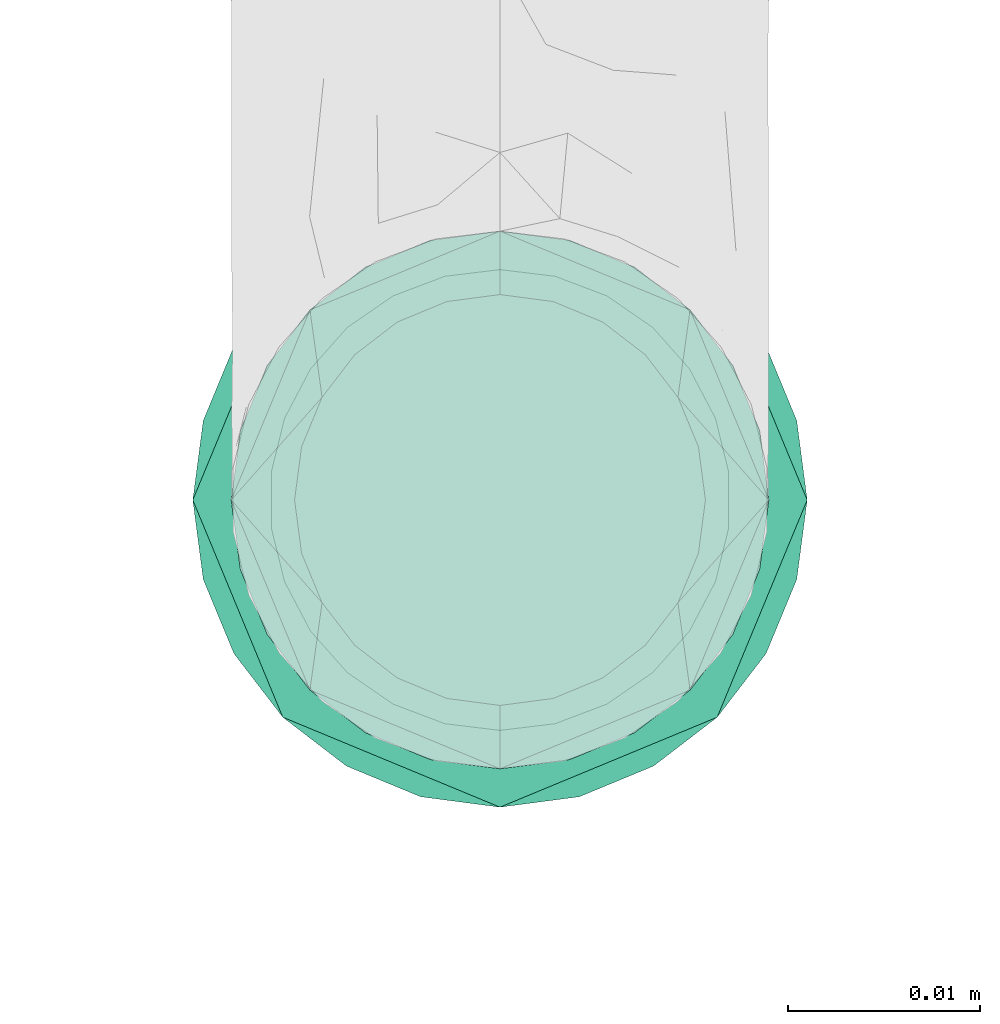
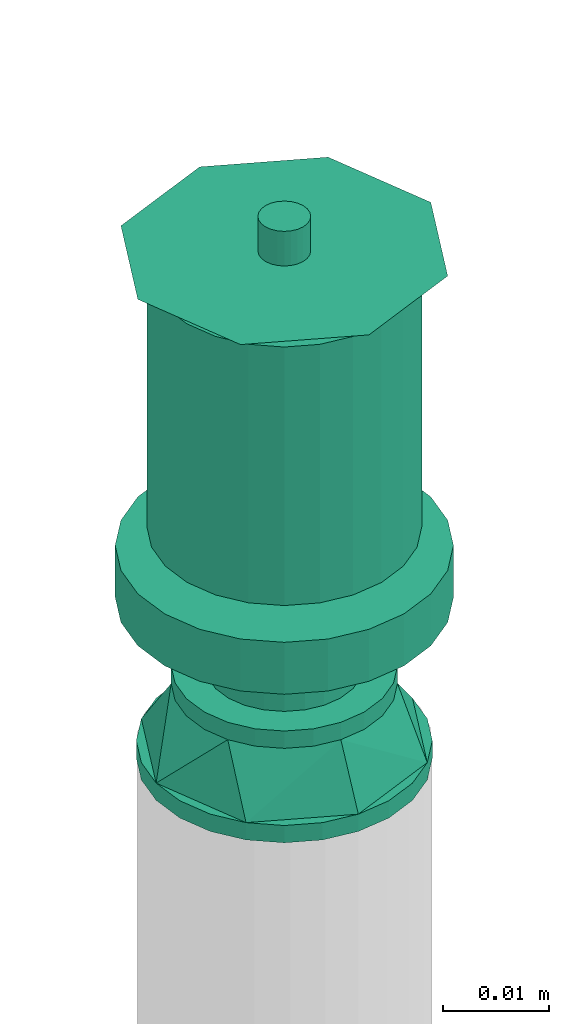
# One storey, part 51 of 95: 1 flow fitting, 1 flow terminal.
"""IFC2X3 building model written with IfcOpenShell, lengths in millimetres."""

from ifc_helpers import new_model, entity, si_unit, converted_unit, derived_unit, direction, frame, origin_with_axes, place, context, subcontext, project, spatial, open_shell, surface_model, source, transform, mapped, type_object, element, save


model = new_model("IFC2X3")

# Units and contexts
model_context = context("Model", 3, precision=0.01, world=frame((0.0, 4.29681676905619e-09, 0.0)), true_north=direction((4.01073788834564e-13, 1.0)))
plan_context = context("Plan", 3, precision=0.01, world=frame((0.0, 4.29681676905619e-09, 0.0)), true_north=direction((4.01073788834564e-13, 1.0)))
body_context = subcontext(model_context, "Body", "Model", "MODEL_VIEW")
ifc_project = project(units=[converted_unit("PLANEANGLEUNIT", "DEGREE", entity("IfcPositiveLengthMeasure", 0.0174532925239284), si_unit("PLANEANGLEUNIT", "RADIAN"), dimensions=[0, 0, 0, 0, 0, 0, 0]), si_unit("AREAUNIT", "SQUARE_METRE"), si_unit("LENGTHUNIT", "METRE", prefix="MILLI"), si_unit("MASSUNIT", "GRAM", prefix="KILO"), si_unit("POWERUNIT", "WATT"), si_unit("PRESSUREUNIT", "PASCAL"), si_unit("FORCEUNIT", "NEWTON", prefix="KILO"), si_unit("ELECTRICVOLTAGEUNIT", "VOLT"), si_unit("ELECTRICCURRENTUNIT", "AMPERE"), si_unit("THERMODYNAMICTEMPERATUREUNIT", "DEGREE_CELSIUS"), si_unit("TIMEUNIT", "SECOND"), si_unit("VOLUMEUNIT", "CUBIC_METRE"), derived_unit("LINEARVELOCITYUNIT", [(si_unit("LENGTHUNIT", "METRE"), 1), (si_unit("TIMEUNIT", "SECOND"), -1)]), derived_unit("VOLUMETRICFLOWRATEUNIT", [(si_unit("VOLUMEUNIT", "CUBIC_METRE"), 1), (si_unit("TIMEUNIT", "SECOND"), -1)]), derived_unit("THERMALTRANSMITTANCEUNIT", [(si_unit("POWERUNIT", "WATT"), 1), (si_unit("THERMODYNAMICTEMPERATUREUNIT", "KELVIN"), -1), (si_unit("AREAUNIT", "SQUARE_METRE"), -1)]), derived_unit("SOUNDPRESSUREUNIT", [(si_unit("PRESSUREUNIT", "PASCAL"), 1)])], contexts=[model_context, plan_context])

# Site, building, storey
site_placement = place(None, frame((0.0, -4.29681676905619e-09, 0.0), z_axis=(0.0, 0.0, 1.0), x_axis=(1.0, 0.0, 0.0)))
site = spatial("IfcSite", under=ifc_project, at=site_placement, CompositionType="ELEMENT")
building_placement = place(site_placement, frame((0.0, 4.29681676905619e-09, 0.0), z_axis=(0.0, 0.0, 1.0), x_axis=(1.0, 0.0, 0.0)))
building = spatial("IfcBuilding", under=site, at=building_placement, Name="mc-building", CompositionType="ELEMENT")
storey_placement = place(building_placement, frame((0.0, 0.0, 210900.0), z_axis=(0.0, 0.0, 1.0), x_axis=(1.0, 0.0, 0.0)))
storey = spatial("IfcBuildingStorey", under=building, at=storey_placement, Name="Nivå F", CompositionType="ELEMENT", Elevation=210900.0)

# Flow fitting
pipe_fitting_type = type_object("IfcPipeFittingType", Name="magi_pipe_fe_reducer_centric_short_001", PredefinedType="TRANSITION")
shared_shape_1 = source(origin_with_axes(), body_context, "Body", "SurfaceModel", [
    surface_model("IfcShellBasedSurfaceModel", [(8.6, 10.33541, -2.76936), (8.6, 2.76936, -10.33541), (8.6, 5.35, -9.26647), (8.6, 7.56604, -7.56604), (8.6, 0.0, -10.7), (8.6, 9.26647, -5.35), (8.6, -7.56604, -7.56604), (8.6, 10.7, 0.0), (8.6, -2.76936, -10.33541), (8.6, -5.35, -9.26647), (8.6, -10.33541, -2.76936), (8.6, -9.26647, -5.35), (8.6, 10.33541, 2.76936), (8.6, 9.26647, 5.35), (8.6, 7.56604, 7.56604), (8.6, 5.35, 9.26647), (8.6, 2.76936, 10.33541), (8.6, 0.0, 10.7), (8.6, -9.26647, 5.35), (8.6, -10.33541, 2.76936), (8.6, -10.7, 0.0), (8.6, -7.56604, 7.56604), (8.6, -2.76936, 10.33541), (8.6, -5.35, 9.26647), (6.6, 2.76936, 10.33541), (6.6, -10.33541, -2.76936), (6.6, 0.0, 10.7), (6.6, 5.35, 9.26647), (6.6, 7.56604, 7.56604), (6.6, 9.26647, 5.35), (6.6, 10.33541, 2.76936), (6.6, -10.33541, 2.76936), (6.6, -2.76936, 10.33541), (6.6, -7.56604, 7.56604), (6.6, -5.35, 9.26647), (6.6, -9.26647, 5.35), (6.6, -10.7, 0.0), (6.6, 10.33541, -2.76936), (6.6, 7.56604, -7.56604), (6.6, 9.26647, -5.35), (6.6, 5.35, -9.26647), (6.6, 2.76936, -10.33541), (6.6, -7.56604, -7.56604), (6.6, -9.26647, -5.35), (6.6, -5.35, -9.26647), (6.6, 0.0, -10.7), (6.6, -2.76936, -10.33541), (6.6, 10.7, 0.0), (-2.0, 9.89949, 9.89949), (-2.0, 0.0, 14.0), (-2.0, 3.62347, 13.52296), (-2.0, 7.0, 12.12436), (-2.0, 12.12436, 7.0), (-2.0, 13.52296, 3.62347), (-2.0, -3.62347, 13.52296), (-2.0, -12.12436, -7.0), (-2.0, -9.89949, 9.89949), (-2.0, -7.0, 12.12436), (-2.0, -13.52296, 3.62347), (-2.0, -12.12436, 7.0), (-2.0, -14.0, 0.0), (-2.0, 13.52296, -3.62347), (-2.0, 9.89949, -9.89949), (-2.0, 12.12436, -7.0), (-2.0, 7.0, -12.12436), (-2.0, 3.62347, -13.52296), (-2.0, -7.0, -12.12436), (-2.0, -9.89949, -9.89949), (-2.0, -13.52296, -3.62347), (-2.0, 0.0, -14.0), (-2.0, -3.62347, -13.52296), (-2.0, 14.0, 0.0), (0.0, 3.62347, -13.52296), (0.0, 7.0, -12.12436), (0.0, 9.89949, -9.89949), (0.0, 12.12436, -7.0), (0.0, 13.52296, -3.62347), (0.0, -7.0, -12.12436), (0.0, -12.12436, -7.0), (0.0, 14.0, 0.0), (0.0, 0.0, -14.0), (0.0, -3.62347, -13.52296), (0.0, -9.89949, -9.89949), (0.0, -13.52296, -3.62347), (0.0, 13.52296, 3.62347), (0.0, 12.12436, 7.0), (0.0, 9.89949, 9.89949), (0.0, 0.0, 14.0), (0.0, 3.62347, 13.52296), (0.0, 7.0, 12.12436), (0.0, -3.62347, 13.52296), (0.0, -13.52296, 3.62347), (0.0, -9.89949, 9.89949), (0.0, -12.12436, 7.0), (0.0, -14.0, 0.0), (0.0, -7.0, 12.12436)], [open_shell([[[0, 1, 2]], [[0, 2, 3]], [[1, 0, 4]], [[0, 3, 5]], [[6, 0, 7]], [[8, 6, 9]], [[6, 8, 4]], [[6, 10, 11]], [[6, 4, 0]], [[7, 10, 6]], [[7, 12, 10]], [[12, 13, 14]], [[12, 14, 15]], [[16, 17, 12]], [[16, 12, 15]], [[17, 18, 10]], [[10, 19, 20]], [[18, 19, 10]], [[21, 22, 23]], [[22, 21, 18]], [[17, 22, 18]], [[10, 12, 17]], [[24, 25, 26]], [[27, 25, 24]], [[28, 29, 30]], [[28, 30, 27]], [[31, 26, 25]], [[32, 33, 34]], [[32, 26, 33]], [[33, 31, 35]], [[26, 31, 33]], [[31, 25, 36]], [[27, 30, 25]], [[25, 30, 37]], [[38, 37, 39]], [[37, 40, 25]], [[40, 37, 38]], [[41, 25, 40]], [[25, 42, 43]], [[42, 25, 44]], [[44, 45, 46]], [[44, 25, 41]], [[41, 45, 44]], [[37, 30, 47]], [[25, 10, 36]], [[43, 11, 25]], [[9, 42, 44]], [[43, 42, 6]], [[8, 44, 46]], [[25, 11, 10]], [[10, 20, 36]], [[8, 9, 44]], [[6, 42, 9]], [[6, 11, 43]], [[4, 8, 46]], [[46, 45, 4]], [[41, 1, 45]], [[40, 2, 41]], [[5, 38, 39]], [[40, 38, 3]], [[0, 39, 37]], [[40, 3, 2]], [[2, 1, 41]], [[7, 0, 37]], [[5, 39, 0]], [[5, 3, 38]], [[47, 7, 37]], [[45, 1, 4]], [[30, 12, 47]], [[29, 13, 30]], [[15, 28, 27]], [[29, 28, 14]], [[16, 27, 24]], [[30, 13, 12]], [[12, 7, 47]], [[16, 15, 27]], [[14, 28, 15]], [[14, 13, 29]], [[17, 16, 24]], [[24, 26, 17]], [[32, 22, 26]], [[34, 23, 32]], [[18, 33, 35]], [[34, 33, 21]], [[19, 35, 31]], [[34, 21, 23]], [[23, 22, 32]], [[20, 19, 31]], [[18, 35, 19]], [[18, 21, 33]], [[36, 20, 31]], [[26, 22, 17]], [[48, 49, 50]], [[48, 50, 51]], [[48, 52, 53]], [[48, 53, 49]], [[54, 49, 55]], [[54, 56, 57]], [[56, 54, 58]], [[56, 58, 59]], [[60, 58, 55]], [[55, 58, 54]], [[55, 49, 53]], [[55, 53, 61]], [[62, 61, 63]], [[62, 64, 65]], [[61, 62, 66]], [[65, 66, 62]], [[55, 66, 67]], [[68, 60, 55]], [[66, 69, 70]], [[66, 55, 61]], [[69, 66, 65]], [[53, 71, 61]], [[72, 73, 74]], [[72, 74, 75]], [[72, 76, 77]], [[76, 72, 75]], [[78, 76, 79]], [[80, 77, 81]], [[80, 72, 77]], [[77, 78, 82]], [[76, 78, 77]], [[79, 83, 78]], [[79, 84, 83]], [[84, 85, 86]], [[84, 86, 87]], [[88, 87, 86]], [[88, 86, 89]], [[84, 87, 90]], [[91, 92, 93]], [[90, 91, 94]], [[92, 90, 95]], [[90, 92, 91]], [[94, 84, 90]], [[84, 94, 83]], [[68, 83, 60]], [[55, 78, 68]], [[77, 67, 66]], [[55, 67, 82]], [[81, 66, 70]], [[68, 78, 83]], [[83, 94, 60]], [[81, 77, 66]], [[82, 67, 77]], [[82, 78, 55]], [[80, 81, 70]], [[70, 69, 80]], [[65, 72, 69]], [[64, 73, 65]], [[75, 62, 63]], [[64, 62, 74]], [[76, 63, 61]], [[64, 74, 73]], [[73, 72, 65]], [[79, 76, 61]], [[75, 63, 76]], [[75, 74, 62]], [[71, 79, 61]], [[69, 72, 80]], [[53, 84, 71]], [[52, 85, 53]], [[89, 48, 51]], [[52, 48, 86]], [[88, 51, 50]], [[53, 85, 84]], [[84, 79, 71]], [[88, 89, 51]], [[86, 48, 89]], [[86, 85, 52]], [[87, 88, 50]], [[50, 49, 87]], [[54, 90, 49]], [[57, 95, 54]], [[93, 56, 59]], [[57, 56, 92]], [[91, 59, 58]], [[57, 92, 95]], [[95, 90, 54]], [[94, 91, 58]], [[93, 59, 91]], [[93, 92, 56]], [[60, 94, 58]], [[49, 90, 87]], [[27, 34, 47]], [[47, 34, 44]], [[44, 40, 47]], [[44, 34, 36]], [[87, 86, 92]], [[94, 92, 86]], [[86, 80, 94]], [[74, 80, 86]], [[82, 94, 80]], [[86, 79, 74]], [[47, 40, 74]], [[74, 79, 47]], [[40, 80, 74]], [[44, 36, 82]], [[82, 80, 44]], [[94, 82, 36]], [[44, 80, 40]], [[36, 34, 92]], [[92, 94, 36]], [[34, 87, 92]], [[27, 47, 86]], [[86, 87, 27]], [[79, 86, 47]], [[27, 87, 34]]])]),
])
flow_fitting_placement = place(storey_placement, frame((535962.24677, 443656.17841, 4383.44411000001), z_axis=(1.0, 0.0, 0.0), x_axis=(0.0, 0.0, 1.0)))
element("IfcFlowFitting", 1, at=flow_fitting_placement, inside=storey, type_object=pipe_fitting_type, Name="magi_pipe_fe_reducer_centric_short_001", context=body_context, shape_type="MappedRepresentation", body=[
    mapped(shared_shape_1, transform((0.0, 0.0, 0.0), scale=1.0)),
])

# Flow terminal
fire_suppression_terminal_type = type_object("IfcFireSuppressionTerminalType", Name="68DGR-STD-STÅENDE", PredefinedType="NOTDEFINED")
shared_shape_2 = source(origin_with_axes(), body_context, "Body", "SurfaceModel", [
    surface_model("IfcShellBasedSurfaceModel", [(3.36465, -12.55704, 51.0), (6.5, -11.25833, 51.0), (9.19239, -9.19239, 51.0), (12.55704, -3.36465, 51.0), (-11.25833, -6.5, 51.0), (11.25833, -6.5, 51.0), (-13.0, 0.0, 51.0), (0.0, -13.0, 51.0), (-6.5, -11.25833, 51.0), (-3.36465, -12.55704, 51.0), (-9.19239, -9.19239, 51.0), (-12.55704, -3.36465, 51.0), (13.0, 0.0, 51.0), (12.55704, 3.36465, 51.0), (11.25833, 6.5, 51.0), (9.19239, 9.19239, 51.0), (6.5, 11.25833, 51.0), (3.36465, 12.55704, 51.0), (0.0, 13.0, 51.0), (-3.36465, 12.55704, 51.0), (-12.55704, 3.36465, 51.0), (-9.19239, 9.19239, 51.0), (-11.25833, 6.5, 51.0), (-6.5, 11.25833, 51.0), (0.0, 13.0, 21.14766), (3.36465, 12.55704, 21.14766), (6.5, 11.25833, 21.14766), (-3.36465, 12.55704, 21.14766), (9.19239, 9.19239, 21.14766), (11.25833, 6.5, 21.14766), (12.55704, 3.36465, 21.14766), (-12.55704, 3.36465, 21.14766), (-11.25833, -6.5, 21.14766), (-9.19239, 9.19239, 21.14766), (-6.5, 11.25833, 21.14766), (-11.25833, 6.5, 21.14766), (-13.0, 0.0, 21.14766), (12.55704, -3.36465, 21.14766), (9.19239, -9.19239, 21.14766), (11.25833, -6.5, 21.14766), (6.5, -11.25833, 21.14766), (3.36465, -12.55704, 21.14766), (-6.5, -11.25833, 21.14766), (-9.19239, -9.19239, 21.14766), (-12.55704, -3.36465, 21.14766), (0.0, -13.0, 21.14766), (-3.36465, -12.55704, 21.14766), (13.0, 0.0, 21.14766), (7.24444, -1.94114, 0.1), (1.94114, -7.24444, 0.1), (3.75, -6.49519, 0.1), (5.3033, -5.3033, 0.1), (-5.3033, -5.3033, 0.1), (6.49519, -3.75, 0.1), (5.3033, 5.3033, 0.1), (0.0, -7.5, 0.1), (-3.75, -6.49519, 0.1), (-1.94114, -7.24444, 0.1), (-7.24444, -1.94114, 0.1), (-6.49519, -3.75, 0.1), (-7.24444, 1.94114, 0.1), (7.5, 0.0, 0.1), (6.49519, 3.75, 0.1), (-6.49519, 3.75, 0.1), (1.94114, 7.24444, 0.1), (0.0, 7.5, 0.1), (3.75, 6.49519, 0.1), (-7.5, 0.0, 0.1), (-5.3033, 5.3033, 0.1), (-1.94114, 7.24444, 0.1), (-3.75, 6.49519, 0.1), (7.24444, 1.94114, 0.1), (1.94114, 7.24444, -0.1), (-6.49519, 3.75, -0.1), (0.0, 7.5, -0.1), (5.3033, 5.3033, -0.1), (3.75, 6.49519, -0.1), (6.49519, 3.75, -0.1), (7.24444, 1.94114, -0.1), (-1.94114, 7.24444, -0.1), (-5.3033, 5.3033, -0.1), (-3.75, 6.49519, -0.1), (-7.24444, 1.94114, -0.1), (-7.24444, -1.94114, -0.1), (-7.5, 0.0, -0.1), (7.5, 0.0, -0.1), (7.24444, -1.94114, -0.1), (-5.3033, -5.3033, -0.1), (1.94114, -7.24444, -0.1), (6.49519, -3.75, -0.1), (5.3033, -5.3033, -0.1), (3.75, -6.49519, -0.1), (-6.49519, -3.75, -0.1), (-3.75, -6.49519, -0.1), (0.0, -7.5, -0.1), (-1.94114, -7.24444, -0.1), (0.0, -2.5, 51.0), (-2.5, 0.0, 51.0), (0.0, 2.5, 51.0), (2.5, 0.0, 51.0), (0.0, -16.0, 53.0), (11.31371, -11.31371, 53.0), (-11.31371, -11.31371, 53.0), (-16.0, 0.0, 53.0), (16.0, 0.0, 53.0), (11.31371, 11.31371, 53.0), (0.0, 16.0, 53.0), (-11.31371, 11.31371, 53.0), (1.25, -2.16506, 57.0), (0.0, -2.5, 57.0), (0.64705, -2.41481, 57.0), (2.41481, -0.64705, 57.0), (1.76777, -1.76777, 57.0), (-2.41481, -0.64705, 57.0), (-2.5, 0.0, 57.0), (2.16506, -1.25, 57.0), (-1.25, -2.16506, 57.0), (-0.64705, -2.41481, 57.0), (-1.76777, -1.76777, 57.0), (-2.16506, -1.25, 57.0), (2.5, 0.0, 57.0), (2.41481, 0.64705, 57.0), (2.16506, 1.25, 57.0), (1.76777, 1.76777, 57.0), (0.64705, 2.41481, 57.0), (1.25, 2.16506, 57.0), (-1.76777, 1.76777, 57.0), (0.0, 2.5, 57.0), (-2.16506, 1.25, 57.0), (-2.41481, 0.64705, 57.0), (-0.64705, 2.41481, 57.0), (-1.25, 2.16506, 57.0), (1.25, 2.16506, 51.0), (1.76777, 1.76777, 51.0), (1.15, 1.99186, 51.0), (0.59528, 2.22163, 51.0), (0.64705, 2.41481, 51.0), (0.0, 2.3, 51.0), (1.62635, 1.62635, 51.0), (2.41481, 0.64705, 51.0), (2.3, 0.0, 51.0), (2.22163, 0.59528, 51.0), (2.16506, 1.25, 51.0), (1.99186, 1.15, 51.0), (-0.59528, 2.22163, 51.0), (-0.64705, 2.41481, 51.0), (-1.15, 1.99186, 51.0), (-1.76777, 1.76777, 51.0), (-1.25, 2.16506, 51.0), (-1.62635, 1.62635, 51.0), (-1.99186, 1.15, 51.0), (-2.16506, 1.25, 51.0), (-2.22163, 0.59528, 51.0), (-2.41481, 0.64705, 51.0), (-2.3, 0.0, 51.0), (2.41481, -0.64705, 51.0), (2.22163, -0.59528, 51.0), (1.99186, -1.15, 51.0), (2.16506, -1.25, 51.0), (1.62635, -1.62635, 51.0), (1.76777, -1.76777, 51.0), (1.25, -2.16506, 51.0), (1.15, -1.99186, 51.0), (0.59528, -2.22163, 51.0), (0.64705, -2.41481, 51.0), (0.0, -2.3, 51.0), (-2.16506, -1.25, 51.0), (-1.99186, -1.15, 51.0), (-1.76777, -1.76777, 51.0), (-1.62635, -1.62635, 51.0), (-2.41481, -0.64705, 51.0), (-2.22163, -0.59528, 51.0), (-0.59528, -2.22163, 51.0), (-0.64705, -2.41481, 51.0), (-1.15, -1.99186, 51.0), (-1.25, -2.16506, 51.0), (1.62635, -1.62635, 56.8), (1.15, -1.99186, 56.8), (0.59528, -2.22163, 56.8), (0.0, -2.3, 56.8), (2.22163, 0.59528, 56.8), (1.99186, -1.15, 56.8), (2.22163, -0.59528, 56.8), (-0.59528, -2.22163, 56.8), (-1.15, -1.99186, 56.8), (-1.62635, -1.62635, 56.8), (-1.99186, -1.15, 56.8), (-2.22163, -0.59528, 56.8), (-1.99186, 1.15, 56.8), (2.3, 0.0, 56.8), (1.62635, 1.62635, 56.8), (1.99186, 1.15, 56.8), (1.15, 1.99186, 56.8), (0.0, 2.3, 56.8), (0.59528, 2.22163, 56.8), (-2.22163, 0.59528, 56.8), (-2.3, 0.0, 56.8), (-1.15, 1.99186, 56.8), (-0.59528, 2.22163, 56.8), (-1.62635, 1.62635, 56.8), (4.1411, -15.45481, 19.0), (8.0, -13.85641, 19.0), (11.31371, -11.31371, 19.0), (-8.0, -13.85641, 19.0), (15.45481, -4.1411, 19.0), (16.0, 0.0, 19.0), (13.85641, -8.0, 19.0), (0.0, -16.0, 19.0), (-4.1411, -15.45481, 19.0), (-13.85641, -8.0, 19.0), (-11.31371, -11.31371, 19.0), (-15.45481, -4.1411, 19.0), (15.45481, 4.1411, 19.0), (13.85641, 8.0, 19.0), (11.31371, 11.31371, 19.0), (-4.1411, 15.45481, 19.0), (8.0, 13.85641, 19.0), (4.1411, 15.45481, 19.0), (0.0, 16.0, 19.0), (-13.85641, 8.0, 19.0), (-15.45481, 4.1411, 19.0), (-16.0, 0.0, 19.0), (-11.31371, 11.31371, 19.0), (-8.0, 13.85641, 19.0), (0.0, 16.0, 13.0), (4.1411, 15.45481, 13.0), (8.0, 13.85641, 13.0), (-4.1411, 15.45481, 13.0), (11.31371, 11.31371, 13.0), (13.85641, 8.0, 13.0), (15.45481, 4.1411, 13.0), (-15.45481, -4.1411, 13.0), (-11.31371, 11.31371, 13.0), (-8.0, 13.85641, 13.0), (-13.85641, 8.0, 13.0), (-15.45481, 4.1411, 13.0), (-16.0, 0.0, 13.0), (4.1411, -15.45481, 13.0), (16.0, 0.0, 13.0), (15.45481, -4.1411, 13.0), (13.85641, -8.0, 13.0), (11.31371, -11.31371, 13.0), (8.0, -13.85641, 13.0), (-8.0, -13.85641, 13.0), (-13.85641, -8.0, 13.0), (-11.31371, -11.31371, 13.0), (0.0, -16.0, 13.0), (-4.1411, -15.45481, 13.0), (7.24444, -1.94114, 13.0), (1.94114, -7.24444, 13.0), (3.75, -6.49519, 13.0), (5.3033, -5.3033, 13.0), (-5.3033, -5.3033, 13.0), (6.49519, -3.75, 13.0), (5.3033, 5.3033, 13.0), (0.0, -7.5, 13.0), (-3.75, -6.49519, 13.0), (-1.94114, -7.24444, 13.0), (-7.24444, -1.94114, 13.0), (-6.49519, -3.75, 13.0), (-7.24444, 1.94114, 13.0), (7.5, 0.0, 13.0), (6.49519, 3.75, 13.0), (-6.49519, 3.75, 13.0), (1.94114, 7.24444, 13.0), (0.0, 7.5, 13.0), (3.75, 6.49519, 13.0), (-7.5, 0.0, 13.0), (-5.3033, 5.3033, 13.0), (-1.94114, 7.24444, 13.0), (-3.75, 6.49519, 13.0), (7.24444, 1.94114, 13.0), (3.75, 6.49519, 0.0), (5.3033, 5.3033, 0.0), (3.65, 6.32199, 0.0), (1.88938, 7.05126, 0.0), (0.0, 7.3, 0.0), (1.94114, 7.24444, 0.0), (0.0, 7.5, 0.0), (5.16188, 5.16188, 0.0), (7.24444, 1.94114, 0.0), (7.3, 0.0, 0.0), (7.05126, 1.88938, 0.0), (7.5, 0.0, 0.0), (6.49519, 3.75, 0.0), (6.32199, 3.65, 0.0), (-1.88938, 7.05126, 0.0), (-1.94114, 7.24444, 0.0), (-3.65, 6.32199, 0.0), (-5.3033, 5.3033, 0.0), (-3.75, 6.49519, 0.0), (-5.16188, 5.16188, 0.0), (-6.32199, 3.65, 0.0), (-6.49519, 3.75, 0.0), (-7.05126, 1.88938, 0.0), (-7.24444, 1.94114, 0.0), (-7.3, 0.0, 0.0), (-7.5, 0.0, 0.0), (7.24444, -1.94114, 0.0), (7.05126, -1.88938, 0.0), (6.32199, -3.65, 0.0), (6.49519, -3.75, 0.0), (5.16188, -5.16188, 0.0), (5.3033, -5.3033, 0.0), (3.75, -6.49519, 0.0), (3.65, -6.32199, 0.0), (1.88938, -7.05126, 0.0), (1.94114, -7.24444, 0.0), (0.0, -7.3, 0.0), (0.0, -7.5, 0.0), (-6.49519, -3.75, 0.0), (-6.32199, -3.65, 0.0), (-5.3033, -5.3033, 0.0), (-5.16188, -5.16188, 0.0), (-7.24444, -1.94114, 0.0), (-7.05126, -1.88938, 0.0), (-1.88938, -7.05126, 0.0), (-1.94114, -7.24444, 0.0), (-3.65, -6.32199, 0.0), (-3.75, -6.49519, 0.0), (1.88938, -7.05126, 12.8), (0.0, -7.3, 12.8), (3.65, -6.32199, 12.8), (5.16188, -5.16188, 12.8), (6.32199, -3.65, 12.8), (7.05126, 1.88938, 12.8), (7.05126, -1.88938, 12.8), (-5.16188, -5.16188, 12.8), (-1.88938, -7.05126, 12.8), (-3.65, -6.32199, 12.8), (-6.32199, -3.65, 12.8), (-7.05126, -1.88938, 12.8), (0.0, 7.3, 12.8), (7.3, 0.0, 12.8), (6.32199, 3.65, 12.8), (5.16188, 5.16188, 12.8), (3.65, 6.32199, 12.8), (1.88938, 7.05126, 12.8), (-6.32199, 3.65, 12.8), (-7.05126, 1.88938, 12.8), (-7.3, 0.0, 12.8), (-3.65, 6.32199, 12.8), (-1.88938, 7.05126, 12.8), (-5.16188, 5.16188, 12.8)], [open_shell([[[0, 1, 2]], [[0, 2, 3]], [[0, 3, 4]], [[3, 2, 5]], [[6, 4, 3]], [[7, 8, 9]], [[7, 0, 8]], [[8, 4, 10]], [[0, 4, 8]], [[4, 6, 11]], [[6, 3, 12]], [[13, 14, 15]], [[6, 13, 15]], [[16, 17, 18]], [[15, 16, 19]], [[18, 19, 16]], [[20, 21, 22]], [[20, 6, 15]], [[21, 19, 23]], [[19, 21, 20]], [[15, 19, 20]], [[13, 6, 12]], [[24, 25, 26]], [[27, 24, 26]], [[28, 29, 30]], [[26, 28, 31]], [[28, 32, 31]], [[27, 33, 34]], [[33, 27, 31]], [[33, 31, 35]], [[27, 26, 31]], [[31, 32, 36]], [[32, 28, 30]], [[32, 30, 37]], [[38, 37, 39]], [[38, 40, 41]], [[38, 41, 37]], [[32, 37, 41]], [[32, 42, 43]], [[44, 36, 32]], [[42, 45, 46]], [[42, 32, 41]], [[45, 42, 41]], [[30, 47, 37]], [[4, 32, 43]], [[8, 42, 46]], [[43, 42, 10]], [[9, 46, 45]], [[36, 11, 6]], [[11, 36, 44]], [[11, 44, 4]], [[44, 32, 4]], [[43, 10, 4]], [[8, 10, 42]], [[46, 9, 8]], [[45, 7, 9]], [[0, 41, 40]], [[38, 1, 40]], [[5, 39, 37]], [[38, 39, 2]], [[3, 37, 47]], [[41, 0, 7]], [[40, 1, 0]], [[38, 2, 1]], [[39, 5, 2]], [[3, 5, 37]], [[47, 12, 3]], [[41, 7, 45]], [[30, 13, 47]], [[29, 14, 30]], [[25, 24, 17]], [[15, 29, 28]], [[30, 14, 13]], [[13, 12, 47]], [[16, 26, 17]], [[16, 15, 28]], [[26, 25, 17]], [[15, 14, 29]], [[28, 26, 16]], [[24, 18, 17]], [[19, 27, 34]], [[33, 23, 34]], [[22, 35, 31]], [[33, 35, 21]], [[20, 31, 36]], [[27, 19, 18]], [[34, 23, 19]], [[33, 21, 23]], [[35, 22, 21]], [[20, 22, 31]], [[36, 6, 20]], [[27, 18, 24]], [[48, 49, 50]], [[48, 50, 51]], [[49, 48, 52]], [[48, 51, 53]], [[54, 52, 48]], [[55, 56, 57]], [[56, 55, 52]], [[52, 58, 59]], [[52, 55, 49]], [[52, 60, 58]], [[54, 48, 61]], [[62, 54, 61]], [[54, 63, 52]], [[64, 65, 54]], [[64, 54, 66]], [[63, 54, 65]], [[63, 60, 52]], [[67, 58, 60]], [[68, 69, 70]], [[69, 68, 63]], [[69, 63, 65]], [[71, 62, 61]], [[72, 73, 74]], [[75, 72, 76]], [[75, 77, 78]], [[72, 75, 73]], [[78, 73, 75]], [[79, 80, 81]], [[80, 79, 73]], [[74, 73, 79]], [[78, 82, 73]], [[82, 83, 84]], [[82, 78, 85]], [[86, 87, 85]], [[88, 86, 89]], [[90, 91, 88]], [[90, 88, 89]], [[87, 86, 88]], [[83, 87, 92]], [[83, 85, 87]], [[93, 94, 95]], [[94, 93, 87]], [[88, 94, 87]], [[85, 83, 82]], [[83, 58, 84]], [[92, 59, 83]], [[56, 87, 93]], [[92, 87, 52]], [[57, 93, 95]], [[83, 59, 58]], [[58, 67, 84]], [[57, 56, 93]], [[52, 87, 56]], [[52, 59, 92]], [[55, 57, 95]], [[95, 94, 55]], [[88, 49, 94]], [[91, 50, 88]], [[53, 90, 89]], [[91, 90, 51]], [[48, 89, 86]], [[91, 51, 50]], [[50, 49, 88]], [[61, 48, 86]], [[53, 89, 48]], [[53, 51, 90]], [[85, 61, 86]], [[94, 49, 55]], [[78, 71, 85]], [[77, 62, 78]], [[66, 75, 76]], [[77, 75, 54]], [[64, 76, 72]], [[78, 62, 71]], [[71, 61, 85]], [[64, 66, 76]], [[54, 75, 66]], [[54, 62, 77]], [[65, 64, 72]], [[72, 74, 65]], [[79, 69, 74]], [[81, 70, 79]], [[63, 80, 73]], [[81, 80, 68]], [[60, 73, 82]], [[81, 68, 70]], [[70, 69, 79]], [[67, 60, 82]], [[63, 73, 60]], [[63, 68, 80]], [[84, 67, 82]], [[74, 69, 65]], [[96, 97, 98]], [[98, 99, 96]], [[100, 101, 102]], [[103, 102, 101]], [[101, 104, 103]], [[104, 105, 106]], [[107, 103, 106]], [[106, 103, 104]], [[99, 98, 105]], [[105, 104, 99]], [[98, 106, 105]], [[98, 107, 106]], [[107, 98, 97]], [[103, 107, 97]], [[97, 96, 102]], [[102, 103, 97]], [[96, 100, 102]], [[96, 101, 100]], [[101, 96, 99]], [[104, 101, 99]], [[108, 109, 110]], [[111, 108, 112]], [[113, 108, 114]], [[111, 112, 115]], [[108, 111, 114]], [[109, 116, 117]], [[116, 109, 118]], [[118, 113, 119]], [[118, 109, 108]], [[108, 113, 118]], [[111, 120, 114]], [[121, 122, 123]], [[114, 121, 123]], [[114, 123, 124]], [[124, 123, 125]], [[126, 124, 127]], [[124, 128, 129]], [[129, 114, 124]], [[126, 130, 131]], [[128, 124, 126]], [[130, 126, 127]], [[121, 114, 120]], [[132, 133, 134]], [[132, 134, 135]], [[136, 135, 137]], [[135, 136, 132]], [[136, 137, 98]], [[134, 133, 138]], [[139, 140, 141]], [[140, 139, 99]], [[139, 141, 142]], [[138, 142, 143]], [[142, 138, 133]], [[143, 142, 141]], [[98, 144, 145]], [[98, 137, 144]], [[145, 144, 146]], [[147, 148, 149]], [[146, 148, 145]], [[149, 148, 146]], [[150, 151, 147]], [[151, 150, 152]], [[150, 147, 149]], [[153, 152, 154]], [[152, 153, 151]], [[153, 154, 97]], [[99, 155, 156]], [[156, 155, 157]], [[157, 158, 159]], [[158, 157, 155]], [[159, 158, 160]], [[160, 161, 162]], [[162, 161, 163]], [[163, 164, 165]], [[164, 163, 161]], [[165, 164, 96]], [[162, 159, 160]], [[166, 167, 168]], [[168, 167, 169]], [[167, 166, 170]], [[97, 171, 170]], [[170, 171, 167]], [[97, 154, 171]], [[172, 96, 173]], [[172, 173, 174]], [[169, 175, 168]], [[175, 169, 174]], [[175, 174, 173]], [[165, 96, 172]], [[156, 140, 99]], [[170, 113, 97]], [[166, 119, 170]], [[116, 168, 175]], [[166, 168, 118]], [[117, 175, 173]], [[170, 119, 113]], [[113, 114, 97]], [[117, 116, 175]], [[118, 168, 116]], [[118, 119, 166]], [[109, 117, 173]], [[173, 96, 109]], [[164, 110, 96]], [[161, 108, 164]], [[115, 160, 158]], [[161, 160, 112]], [[111, 158, 155]], [[161, 112, 108]], [[108, 110, 164]], [[120, 111, 155]], [[115, 158, 111]], [[115, 112, 160]], [[99, 120, 155]], [[96, 110, 109]], [[139, 121, 99]], [[142, 122, 139]], [[125, 133, 132]], [[142, 133, 123]], [[124, 132, 136]], [[139, 122, 121]], [[121, 120, 99]], [[124, 125, 132]], [[123, 133, 125]], [[123, 122, 142]], [[127, 124, 136]], [[136, 98, 127]], [[145, 130, 98]], [[148, 131, 145]], [[128, 147, 151]], [[148, 147, 126]], [[129, 151, 153]], [[148, 126, 131]], [[131, 130, 145]], [[114, 129, 153]], [[128, 151, 129]], [[128, 126, 147]], [[97, 114, 153]], [[98, 130, 127]], [[176, 177, 178]], [[176, 178, 179]], [[180, 176, 179]], [[181, 176, 182]], [[180, 182, 176]], [[183, 184, 179]], [[185, 179, 184]], [[186, 187, 185]], [[185, 187, 188]], [[179, 185, 188]], [[189, 182, 180]], [[190, 191, 180]], [[192, 190, 180]], [[193, 194, 192]], [[180, 193, 192]], [[188, 193, 180]], [[195, 188, 196]], [[196, 188, 187]], [[197, 198, 199]], [[188, 199, 198]], [[188, 198, 193]], [[180, 179, 188]], [[154, 187, 171]], [[171, 186, 167]], [[174, 169, 184]], [[185, 169, 167]], [[172, 174, 183]], [[187, 186, 171]], [[154, 196, 187]], [[174, 184, 183]], [[184, 169, 185]], [[167, 186, 185]], [[172, 183, 179]], [[179, 165, 172]], [[165, 178, 163]], [[163, 177, 162]], [[157, 159, 181]], [[176, 159, 162]], [[156, 157, 182]], [[177, 176, 162]], [[163, 178, 177]], [[156, 182, 189]], [[182, 157, 181]], [[159, 176, 181]], [[156, 189, 140]], [[179, 178, 165]], [[140, 180, 141]], [[141, 191, 143]], [[134, 138, 192]], [[190, 138, 143]], [[135, 134, 194]], [[180, 191, 141]], [[140, 189, 180]], [[134, 192, 194]], [[192, 138, 190]], [[143, 191, 190]], [[135, 194, 193]], [[193, 137, 135]], [[137, 198, 144]], [[144, 197, 146]], [[150, 149, 188]], [[199, 149, 146]], [[152, 150, 195]], [[197, 199, 146]], [[144, 198, 197]], [[152, 195, 196]], [[195, 150, 188]], [[149, 199, 188]], [[152, 196, 154]], [[193, 198, 137]], [[200, 201, 202]], [[203, 200, 202]], [[204, 205, 202]], [[204, 202, 206]], [[203, 202, 205]], [[207, 203, 208]], [[207, 200, 203]], [[203, 209, 210]], [[209, 203, 211]], [[205, 211, 203]], [[205, 212, 211]], [[212, 213, 214]], [[215, 212, 214]], [[216, 217, 218]], [[214, 216, 215]], [[218, 215, 216]], [[211, 219, 220]], [[221, 211, 220]], [[222, 215, 223]], [[215, 222, 219]], [[219, 211, 215]], [[211, 212, 215]], [[224, 225, 226]], [[227, 224, 226]], [[228, 229, 230]], [[227, 226, 228]], [[227, 228, 231]], [[227, 232, 233]], [[232, 227, 234]], [[234, 231, 235]], [[231, 234, 227]], [[235, 231, 236]], [[228, 230, 231]], [[237, 238, 239]], [[237, 239, 240]], [[241, 242, 237]], [[241, 237, 240]], [[238, 237, 243]], [[244, 243, 245]], [[243, 244, 231]], [[243, 246, 247]], [[243, 231, 238]], [[237, 246, 243]], [[238, 231, 230]], [[231, 211, 236]], [[244, 209, 231]], [[203, 245, 243]], [[244, 245, 210]], [[208, 243, 247]], [[231, 209, 211]], [[211, 221, 236]], [[208, 203, 243]], [[210, 245, 203]], [[210, 209, 244]], [[207, 208, 247]], [[247, 246, 207]], [[237, 200, 246]], [[242, 201, 237]], [[206, 241, 240]], [[242, 241, 202]], [[204, 240, 239]], [[242, 202, 201]], [[201, 200, 237]], [[205, 204, 239]], [[206, 240, 204]], [[206, 202, 241]], [[238, 205, 239]], [[246, 200, 207]], [[230, 212, 238]], [[229, 213, 230]], [[216, 228, 226]], [[229, 228, 214]], [[217, 226, 225]], [[230, 213, 212]], [[212, 205, 238]], [[217, 216, 226]], [[214, 228, 216]], [[214, 213, 229]], [[218, 217, 225]], [[225, 224, 218]], [[227, 215, 224]], [[233, 223, 227]], [[219, 232, 234]], [[233, 232, 222]], [[220, 234, 235]], [[233, 222, 223]], [[223, 215, 227]], [[221, 220, 235]], [[219, 234, 220]], [[219, 222, 232]], [[236, 221, 235]], [[224, 215, 218]], [[248, 249, 250]], [[248, 250, 251]], [[249, 248, 252]], [[248, 251, 253]], [[254, 252, 248]], [[255, 256, 257]], [[256, 255, 252]], [[252, 258, 259]], [[252, 255, 249]], [[252, 260, 258]], [[254, 248, 261]], [[262, 254, 261]], [[254, 263, 252]], [[264, 265, 254]], [[264, 254, 266]], [[263, 254, 265]], [[263, 260, 252]], [[267, 258, 260]], [[268, 269, 270]], [[269, 268, 263]], [[269, 263, 265]], [[271, 262, 261]], [[272, 273, 274]], [[272, 274, 275]], [[276, 277, 275]], [[277, 276, 278]], [[275, 277, 272]], [[274, 273, 279]], [[280, 281, 282]], [[281, 280, 283]], [[280, 282, 284]], [[279, 284, 285]], [[284, 279, 273]], [[285, 284, 282]], [[278, 286, 287]], [[287, 286, 288]], [[289, 290, 291]], [[288, 290, 287]], [[288, 291, 290]], [[278, 276, 286]], [[292, 293, 289]], [[293, 292, 294]], [[292, 289, 291]], [[295, 294, 296]], [[294, 295, 293]], [[295, 296, 297]], [[283, 298, 299]], [[299, 298, 300]], [[300, 301, 302]], [[301, 300, 298]], [[302, 301, 303]], [[303, 304, 305]], [[305, 304, 306]], [[306, 307, 308]], [[307, 306, 304]], [[308, 307, 309]], [[305, 302, 303]], [[310, 311, 312]], [[312, 311, 313]], [[311, 310, 314]], [[297, 315, 314]], [[314, 315, 311]], [[297, 296, 315]], [[316, 309, 317]], [[316, 317, 318]], [[313, 319, 312]], [[313, 318, 319]], [[319, 318, 317]], [[308, 309, 316]], [[299, 281, 283]], [[314, 258, 297]], [[310, 259, 314]], [[256, 312, 319]], [[310, 312, 252]], [[257, 319, 317]], [[314, 259, 258]], [[258, 267, 297]], [[257, 256, 319]], [[252, 312, 256]], [[252, 259, 310]], [[255, 257, 317]], [[317, 309, 255]], [[307, 249, 309]], [[304, 250, 307]], [[253, 303, 301]], [[304, 303, 251]], [[248, 301, 298]], [[304, 251, 250]], [[250, 249, 307]], [[261, 248, 298]], [[253, 301, 248]], [[253, 251, 303]], [[283, 261, 298]], [[309, 249, 255]], [[280, 271, 283]], [[284, 262, 280]], [[266, 273, 272]], [[284, 273, 254]], [[264, 272, 277]], [[280, 262, 271]], [[271, 261, 283]], [[264, 266, 272]], [[254, 273, 266]], [[254, 262, 284]], [[265, 264, 277]], [[277, 278, 265]], [[287, 269, 278]], [[290, 270, 287]], [[263, 289, 293]], [[290, 289, 268]], [[260, 293, 295]], [[290, 268, 270]], [[270, 269, 287]], [[267, 260, 295]], [[263, 293, 260]], [[263, 268, 289]], [[297, 267, 295]], [[278, 269, 265]], [[320, 321, 322]], [[323, 322, 324]], [[325, 326, 322]], [[324, 322, 326]], [[322, 327, 325]], [[328, 329, 321]], [[327, 321, 329]], [[330, 331, 327]], [[322, 321, 327]], [[331, 332, 327]], [[326, 325, 333]], [[334, 325, 332]], [[335, 334, 336]], [[332, 337, 336]], [[334, 332, 336]], [[331, 338, 332]], [[339, 338, 340]], [[340, 338, 331]], [[341, 342, 343]], [[332, 338, 343]], [[332, 343, 342]], [[332, 325, 327]], [[296, 331, 315]], [[315, 330, 311]], [[318, 313, 329]], [[327, 313, 311]], [[316, 318, 328]], [[331, 330, 315]], [[296, 340, 331]], [[318, 329, 328]], [[329, 313, 327]], [[311, 330, 327]], [[316, 328, 321]], [[321, 308, 316]], [[308, 320, 306]], [[306, 322, 305]], [[300, 302, 324]], [[323, 302, 305]], [[299, 300, 326]], [[322, 323, 305]], [[306, 320, 322]], [[299, 326, 333]], [[326, 300, 324]], [[302, 323, 324]], [[299, 333, 281]], [[321, 320, 308]], [[281, 325, 282]], [[282, 334, 285]], [[274, 279, 336]], [[335, 279, 285]], [[275, 274, 337]], [[325, 334, 282]], [[281, 333, 325]], [[274, 336, 337]], [[336, 279, 335]], [[285, 334, 335]], [[275, 337, 332]], [[332, 276, 275]], [[276, 342, 286]], [[286, 341, 288]], [[292, 291, 338]], [[343, 291, 288]], [[294, 292, 339]], [[341, 343, 288]], [[286, 342, 341]], [[294, 339, 340]], [[339, 292, 338]], [[291, 343, 338]], [[294, 340, 296]], [[332, 342, 276]]])]),
])
flow_terminal_placement = place(storey_placement, frame((535962.24677, 443656.17841, 4386.99611000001), z_axis=(0.0, 0.0, 1.0), x_axis=(1.0, 0.0, 0.0)))
element("IfcFlowTerminal", 2, at=flow_terminal_placement, inside=storey, type_object=fire_suppression_terminal_type, Name="68DGR-STD-STÅENDE", context=body_context, shape_type="MappedRepresentation", body=[
    mapped(shared_shape_2, transform((0.0, 0.0, 0.0), scale=1.0)),
])

save(model, "model.ifc")
